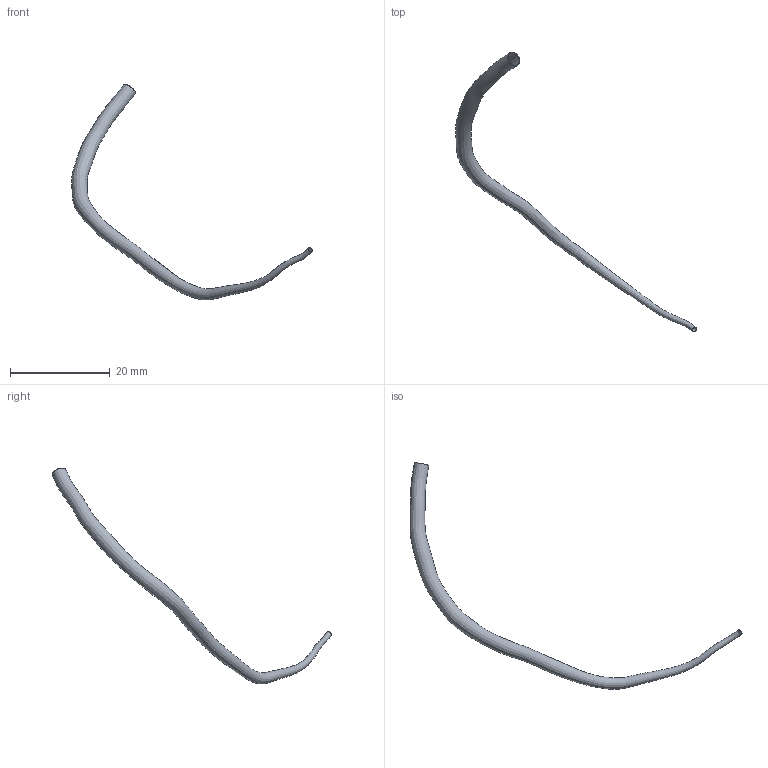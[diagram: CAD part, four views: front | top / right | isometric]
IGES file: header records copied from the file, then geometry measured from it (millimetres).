
Global section: file name: C:\Documents and Settings\Administrator\Desktop\FDA-Pig\Domestic LCA\Pig_000138\llad.seg.ed.igs; native system: Rhinoceros ( May 19 2006 ); preprocessor: Trout Lake IGES 012 May 19 2006; date: 111205.184626; units: centimetre
Bounding box: 48.31 x 56.05 x 43.3 mm (x, y, z)
Surface area: 1491.2 mm2 (no closed solid volume)
Topology: 0 solids, 0 shells, 4 faces, 13 edges, 10 vertices
Faces by surface type: bspline 4
